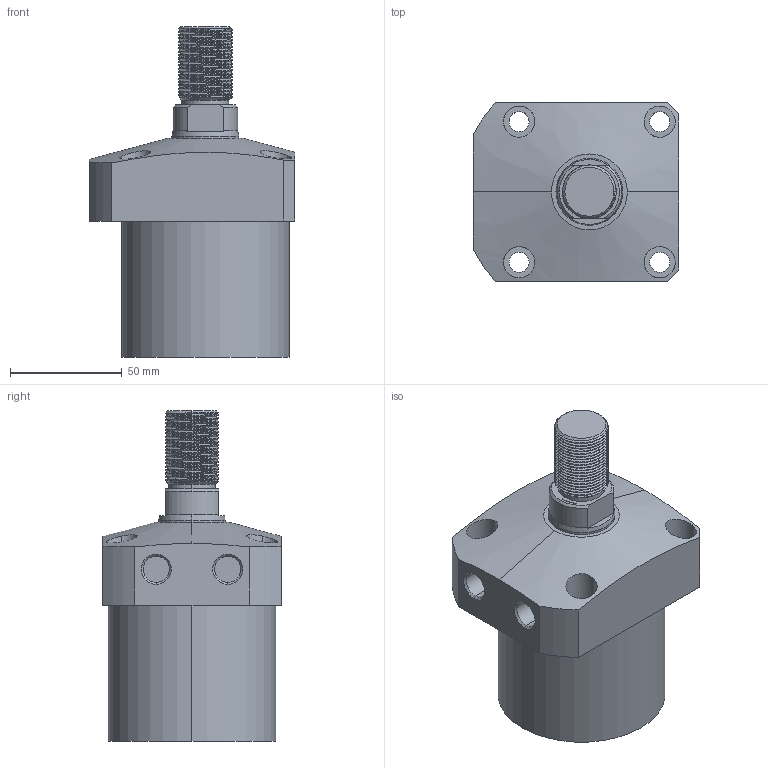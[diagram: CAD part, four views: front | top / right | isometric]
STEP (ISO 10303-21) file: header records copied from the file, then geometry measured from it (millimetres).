
FILE_DESCRIPTION (( 'STEP AP203' ), '1' );
FILE_NAME ('CLL-075CT-045.STEP', '2020-01-08T11:52:31', ( '' ), ( '' ), 'SwSTEP 2.0', 'SolidWorks 2015', '' );
FILE_SCHEMA (( 'CONFIG_CONTROL_DESIGN' ));
Length unit declared in the file: millimetre
Products named in the file (1): CLL-075CT-045
Bounding box: 92 x 80 x 148 mm (x, y, z)
Volume: 512770.1 mm3; surface area: 48635.3 mm2
Topology: 1 solids, 1 shells, 122 faces, 312 edges, 204 vertices
Faces by surface type: cylinder 77, plane 25, cone 16, bspline 4
Entity records: 7947 total; most frequent: CARTESIAN_POINT 5151, ORIENTED_EDGE 624, DIRECTION 511, EDGE_CURVE 312, VERTEX_POINT 204, AXIS2_PLACEMENT_3D 199, EDGE_LOOP 142, FACE_OUTER_BOUND 122
